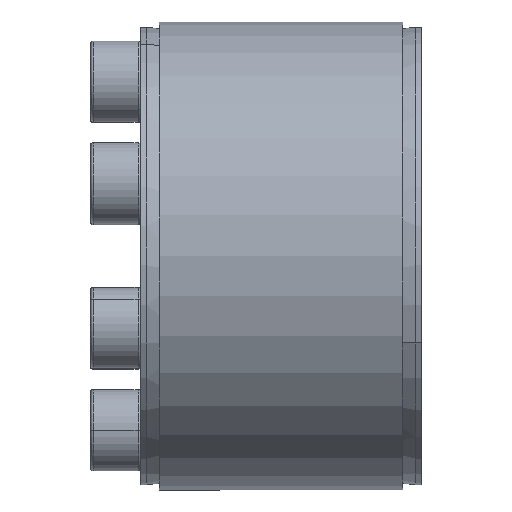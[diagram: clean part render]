
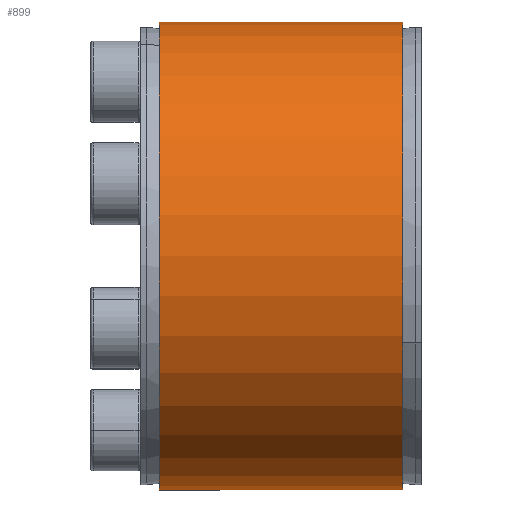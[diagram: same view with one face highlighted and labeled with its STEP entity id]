
A CAD part, top view. The second image highlights one B-rep face of the part: STEP entity #899.
In plain terms, the highlighted cylindrical face has radius 37.5 mm (diameter 75 mm), a partial arc.
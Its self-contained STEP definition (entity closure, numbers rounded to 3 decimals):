
#60 = VERTEX_POINT ( 'NONE', #3173 ) ;
#179 = EDGE_LOOP ( 'NONE', ( #4759, #4021, #4290, #1281 ) ) ;
#331 = CARTESIAN_POINT ( 'NONE',  ( -21.398, -37.5, 0. ) ) ;
#899 = ADVANCED_FACE ( 'NONE', ( #3666 ), #5997, .T. ) ;
#1171 = CARTESIAN_POINT ( 'NONE',  ( 39.663, -37.5, 0. ) ) ;
#1281 = ORIENTED_EDGE ( 'NONE', *, *, #1522, .F. ) ;
#1325 = VERTEX_POINT ( 'NONE', #2575 ) ;
#1522 = EDGE_CURVE ( 'NONE', #6357, #60, #4662, .T. ) ;
#1859 = DIRECTION ( 'NONE',  ( 1., 0., 0. ) ) ;
#2534 = DIRECTION ( 'NONE',  ( 1., 0., 0. ) ) ;
#2575 = CARTESIAN_POINT ( 'NONE',  ( 17.602, -37.5, 0. ) ) ;
#2656 = CIRCLE ( 'NONE', #4121, 37.5 ) ;
#2835 = DIRECTION ( 'NONE',  ( 0., 1., 0. ) ) ;
#2905 = VECTOR ( 'NONE', #4618, 1000. ) ;
#3173 = CARTESIAN_POINT ( 'NONE',  ( 17.602, 37.5, 0. ) ) ;
#3365 = VECTOR ( 'NONE', #1859, 1000. ) ;
#3442 = CIRCLE ( 'NONE', #4708, 37.5 ) ;
#3496 = EDGE_CURVE ( 'NONE', #5545, #1325, #5559, .T. ) ;
#3666 = FACE_OUTER_BOUND ( 'NONE', #179, .T. ) ;
#4021 = ORIENTED_EDGE ( 'NONE', *, *, #3496, .T. ) ;
#4121 = AXIS2_PLACEMENT_3D ( 'NONE', #5313, #5749, #2835 ) ;
#4290 = ORIENTED_EDGE ( 'NONE', *, *, #4582, .F. ) ;
#4291 = DIRECTION ( 'NONE',  ( 0., 1., 0. ) ) ;
#4386 = DIRECTION ( 'NONE',  ( 1., 0., 0. ) ) ;
#4582 = EDGE_CURVE ( 'NONE', #60, #1325, #2656, .T. ) ;
#4618 = DIRECTION ( 'NONE',  ( 1., 0., 0. ) ) ;
#4662 = LINE ( 'NONE', #4837, #3365 ) ;
#4708 = AXIS2_PLACEMENT_3D ( 'NONE', #5513, #2534, #6000 ) ;
#4759 = ORIENTED_EDGE ( 'NONE', *, *, #5819, .T. ) ;
#4837 = CARTESIAN_POINT ( 'NONE',  ( 39.663, 37.5, 0. ) ) ;
#5313 = CARTESIAN_POINT ( 'NONE',  ( 17.602, 0., 0. ) ) ;
#5513 = CARTESIAN_POINT ( 'NONE',  ( -21.398, 0., 0. ) ) ;
#5545 = VERTEX_POINT ( 'NONE', #331 ) ;
#5559 = LINE ( 'NONE', #1171, #2905 ) ;
#5749 = DIRECTION ( 'NONE',  ( 1., 0., 0. ) ) ;
#5819 = EDGE_CURVE ( 'NONE', #6357, #5545, #3442, .T. ) ;
#5954 = AXIS2_PLACEMENT_3D ( 'NONE', #6408, #4386, #4291 ) ;
#5997 = CYLINDRICAL_SURFACE ( 'NONE', #5954, 37.5 ) ;
#6000 = DIRECTION ( 'NONE',  ( 0., 1., 0. ) ) ;
#6040 = CARTESIAN_POINT ( 'NONE',  ( -21.398, 37.5, 0. ) ) ;
#6357 = VERTEX_POINT ( 'NONE', #6040 ) ;
#6408 = CARTESIAN_POINT ( 'NONE',  ( 39.663, 0., 0. ) ) ;
